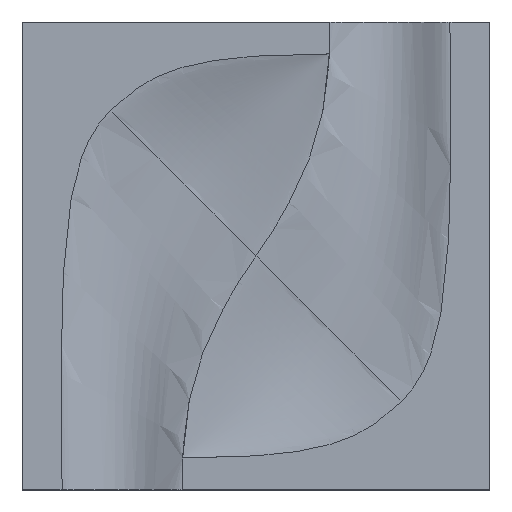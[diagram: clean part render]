
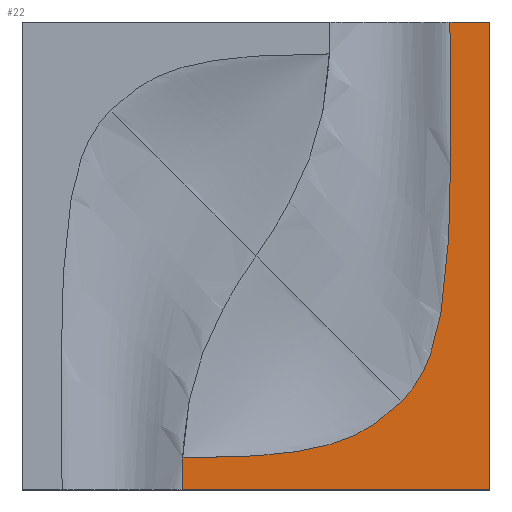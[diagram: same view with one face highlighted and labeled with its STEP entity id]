
A CAD part, top view. The second image highlights one B-rep face of the part: STEP entity #22.
In plain terms, the highlighted planar face has unit normal (0, 0, 1).
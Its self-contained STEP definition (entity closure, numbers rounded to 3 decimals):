
#22=ADVANCED_FACE('',(#33),#152,.T.);
#33=FACE_OUTER_BOUND('',#44,.T.);
#44=EDGE_LOOP('',(#80,#81,#82,#83,#84,#85));
#80=ORIENTED_EDGE('',*,*,#119,.T.);
#81=ORIENTED_EDGE('',*,*,#124,.T.);
#82=ORIENTED_EDGE('',*,*,#104,.F.);
#83=ORIENTED_EDGE('',*,*,#113,.T.);
#84=ORIENTED_EDGE('',*,*,#108,.T.);
#85=ORIENTED_EDGE('',*,*,#117,.T.);
#104=EDGE_CURVE('',#130,#133,#163,.T.);
#108=EDGE_CURVE('',#134,#137,#167,.T.);
#113=EDGE_CURVE('',#130,#134,#172,.T.);
#117=EDGE_CURVE('',#137,#138,#176,.T.);
#119=EDGE_CURVE('',#138,#140,#178,.T.);
#124=EDGE_CURVE('',#140,#133,#183,.T.);
#130=VERTEX_POINT('',#3545);
#133=VERTEX_POINT('',#3548);
#134=VERTEX_POINT('',#3549);
#137=VERTEX_POINT('',#3552);
#138=VERTEX_POINT('',#3553);
#140=VERTEX_POINT('',#3555);
#152=PLANE('',#210);
#163=B_SPLINE_CURVE_WITH_KNOTS('',1,(#3566,#3567),.UNSPECIFIED.,.F.,.F.,
(2,2),(0.,164.53),.UNSPECIFIED.);
#167=B_SPLINE_CURVE_WITH_KNOTS('',1,(#3574,#3575),.UNSPECIFIED.,.F.,.F.,
(2,2),(0.,21.368),.UNSPECIFIED.);
#172=B_SPLINE_CURVE_WITH_KNOTS('',1,(#3584,#3585),.UNSPECIFIED.,.F.,.F.,
(2,2),(0.,250.),.UNSPECIFIED.);
#176=B_SPLINE_CURVE_WITH_KNOTS('',3,(#3695,#3696,#3697,#3698,#3699),
 .UNSPECIFIED.,.F.,.F.,(4,1,4),(-1.,-0.1,0.),
 .UNSPECIFIED.);
#178=B_SPLINE_CURVE_WITH_KNOTS('',3,(#3704,#3705,#3706,#3707,#3708,#3709,
#3710,#3711,#3712,#3713,#3714,#3715,#3716,#3717,#3718,#3719,#3720,#3721,
#3722,#3723,#3724,#3725,#3726,#3727),.UNSPECIFIED.,.F.,.F.,(4,1,1,1,1,1,
1,1,1,1,1,1,1,1,1,1,1,1,1,1,1,4),(2.,2.031,2.063,2.094,2.125,2.156,
2.188,2.219,2.25,2.313,2.375,2.438,2.45,2.5,2.563,2.625,
2.688,2.75,2.813,2.875,2.933,3.),
 .UNSPECIFIED.);
#183=B_SPLINE_CURVE_WITH_KNOTS('',3,(#3842,#3843,#3844,#3845),
 .UNSPECIFIED.,.F.,.F.,(4,4),(0.863,1.),.UNSPECIFIED.);
#210=AXIS2_PLACEMENT_3D('',#1887,#221,$);
#221=DIRECTION('',(0.,0.,1.));
#1887=CARTESIAN_POINT('',(250.,250.,25.));
#3545=CARTESIAN_POINT('',(250.,0.,25.));
#3548=CARTESIAN_POINT('',(85.47,0.,25.));
#3549=CARTESIAN_POINT('',(250.,250.,25.));
#3552=CARTESIAN_POINT('',(228.633,250.,25.));
#3553=CARTESIAN_POINT('',(202.764,47.236,25.));
#3555=CARTESIAN_POINT('',(85.813,17.061,25.));
#3566=CARTESIAN_POINT('',(250.,0.,25.));
#3567=CARTESIAN_POINT('',(85.47,0.,25.));
#3574=CARTESIAN_POINT('',(250.,250.,25.));
#3575=CARTESIAN_POINT('',(228.633,250.,25.));
#3584=CARTESIAN_POINT('',(250.,0.,25.));
#3585=CARTESIAN_POINT('',(250.,250.,25.));
#3695=CARTESIAN_POINT('',(228.633,250.,25.));
#3696=CARTESIAN_POINT('',(228.633,162.656,25.));
#3697=CARTESIAN_POINT('',(232.942,82.263,25.));
#3698=CARTESIAN_POINT('',(205.641,50.131,25.));
#3699=CARTESIAN_POINT('',(202.764,47.236,25.));
#3704=CARTESIAN_POINT('',(202.764,47.236,25.));
#3705=CARTESIAN_POINT('',(201.85,46.317,25.));
#3706=CARTESIAN_POINT('',(199.977,44.526,25.));
#3707=CARTESIAN_POINT('',(197.055,41.96,25.));
#3708=CARTESIAN_POINT('',(194.059,39.482,25.));
#3709=CARTESIAN_POINT('',(190.981,37.107,25.));
#3710=CARTESIAN_POINT('',(187.806,34.863,25.));
#3711=CARTESIAN_POINT('',(184.527,32.772,25.));
#3712=CARTESIAN_POINT('',(181.147,30.851,25.));
#3713=CARTESIAN_POINT('',(176.513,28.524,25.));
#3714=CARTESIAN_POINT('',(170.511,26.064,25.));
#3715=CARTESIAN_POINT('',(163.081,23.753,25.));
#3716=CARTESIAN_POINT('',(157.53,22.443,25.));
#3717=CARTESIAN_POINT('',(152.449,21.417,25.));
#3718=CARTESIAN_POINT('',(147.343,20.523,25.));
#3719=CARTESIAN_POINT('',(140.152,19.542,25.));
#3720=CARTESIAN_POINT('',(132.417,18.742,25.));
#3721=CARTESIAN_POINT('',(124.665,18.143,25.));
#3722=CARTESIAN_POINT('',(116.903,17.704,25.));
#3723=CARTESIAN_POINT('',(109.134,17.396,25.));
#3724=CARTESIAN_POINT('',(101.535,17.2,25.));
#3725=CARTESIAN_POINT('',(93.761,17.086,25.));
#3726=CARTESIAN_POINT('',(88.577,17.062,25.));
#3727=CARTESIAN_POINT('',(85.813,17.061,25.));
#3842=CARTESIAN_POINT('',(85.813,17.061,25.));
#3843=CARTESIAN_POINT('',(85.563,11.513,25.));
#3844=CARTESIAN_POINT('',(85.47,5.848,25.));
#3845=CARTESIAN_POINT('',(85.47,0.,25.));
